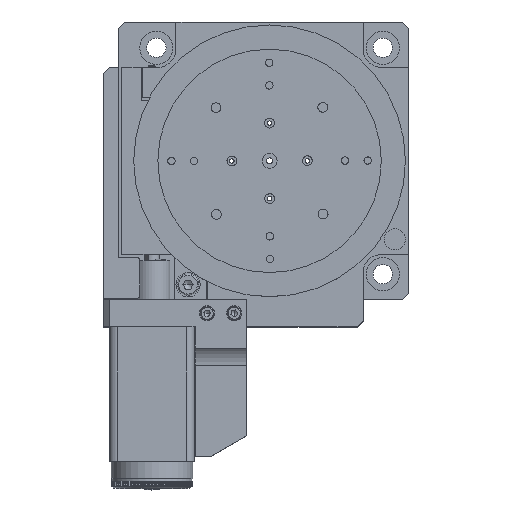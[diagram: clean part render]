
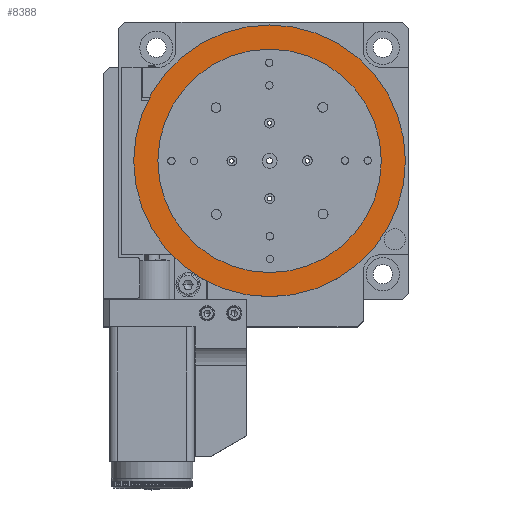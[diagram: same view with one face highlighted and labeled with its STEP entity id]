
A CAD part, top view. The second image highlights one B-rep face of the part: STEP entity #8388.
In plain terms, the highlighted planar face has unit normal (0, 0, 1).
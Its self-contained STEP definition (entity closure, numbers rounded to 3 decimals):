
#8154 = EDGE_CURVE ( 'NONE', #13704, #13717, #26790, .T. ) ;
#8388 = ADVANCED_FACE ( 'NONE', ( #27278, #27277 ), #27276, .T. ) ;
#8389 = EDGE_LOOP ( 'NONE', ( #8438, #8440 ) ) ;
#8438 = ORIENTED_EDGE ( 'NONE', *, *, #8439, .F. ) ;
#8439 = EDGE_CURVE ( 'NONE', #13516, #13451, #27138, .T. ) ;
#8440 = ORIENTED_EDGE ( 'NONE', *, *, #13399, .F. ) ;
#8441 = EDGE_LOOP ( 'NONE', ( #8442, #8443 ) ) ;
#8442 = ORIENTED_EDGE ( 'NONE', *, *, #8154, .T. ) ;
#8443 = ORIENTED_EDGE ( 'NONE', *, *, #13703, .T. ) ;
#13399 = EDGE_CURVE ( 'NONE', #13451, #13516, #36262, .T. ) ;
#13451 = VERTEX_POINT ( 'NONE', #36410 ) ;
#13516 = VERTEX_POINT ( 'NONE', #36488 ) ;
#13703 = EDGE_CURVE ( 'NONE', #13717, #13704, #36931, .T. ) ;
#13704 = VERTEX_POINT ( 'NONE', #36927 ) ;
#13717 = VERTEX_POINT ( 'NONE', #36957 ) ;
#26782 = DIRECTION ( 'NONE',  ( 1., 0., 0. ) ) ;
#26783 = DIRECTION ( 'NONE',  ( 0., 0., -1. ) ) ;
#26784 = CARTESIAN_POINT ( 'NONE',  ( 50., 46., 32. ) ) ;
#26785 = AXIS2_PLACEMENT_3D ( 'NONE', #26784, #26783, #26782 ) ;
#26790 = CIRCLE ( 'NONE', #26785, 37. ) ;
#27123 = DIRECTION ( 'NONE',  ( 1., 0., 0. ) ) ;
#27124 = DIRECTION ( 'NONE',  ( 0., 0., -1. ) ) ;
#27125 = CARTESIAN_POINT ( 'NONE',  ( 50., 46., 32. ) ) ;
#27126 = AXIS2_PLACEMENT_3D ( 'NONE', #27125, #27124, #27123 ) ;
#27138 = CIRCLE ( 'NONE', #27126, 45. ) ;
#27272 = DIRECTION ( 'NONE',  ( 0., -1., 0. ) ) ;
#27273 = DIRECTION ( 'NONE',  ( 0., 0., 1. ) ) ;
#27274 = CARTESIAN_POINT ( 'NONE',  ( 91., 46.133, 32. ) ) ;
#27275 = AXIS2_PLACEMENT_3D ( 'NONE', #27274, #27273, #27272 ) ;
#27276 = PLANE ( 'NONE',  #27275 ) ;
#27277 = FACE_BOUND ( 'NONE', #8441, .T. ) ;
#27278 = FACE_OUTER_BOUND ( 'NONE', #8389, .T. ) ;
#36258 = DIRECTION ( 'NONE',  ( 1., 0., 0. ) ) ;
#36259 = DIRECTION ( 'NONE',  ( 0., 0., -1. ) ) ;
#36260 = CARTESIAN_POINT ( 'NONE',  ( 50., 46., 32. ) ) ;
#36261 = AXIS2_PLACEMENT_3D ( 'NONE', #36260, #36259, #36258 ) ;
#36262 = CIRCLE ( 'NONE', #36261, 45. ) ;
#36410 = CARTESIAN_POINT ( 'NONE',  ( 5., 46., 32. ) ) ;
#36488 = CARTESIAN_POINT ( 'NONE',  ( 95., 46., 32. ) ) ;
#36879 = CARTESIAN_POINT ( 'NONE',  ( 50., 46., 32. ) ) ;
#36927 = CARTESIAN_POINT ( 'NONE',  ( 87., 46., 32. ) ) ;
#36928 = DIRECTION ( 'NONE',  ( 1., 0., 0. ) ) ;
#36929 = DIRECTION ( 'NONE',  ( 0., 0., -1. ) ) ;
#36930 = AXIS2_PLACEMENT_3D ( 'NONE', #36879, #36929, #36928 ) ;
#36931 = CIRCLE ( 'NONE', #36930, 37. ) ;
#36957 = CARTESIAN_POINT ( 'NONE',  ( 13., 46., 32. ) ) ;
